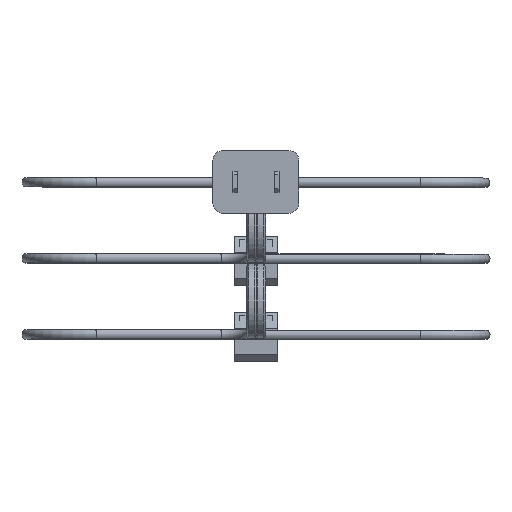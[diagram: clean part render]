
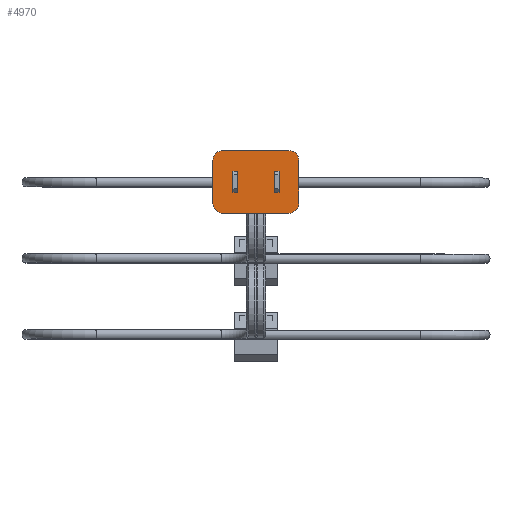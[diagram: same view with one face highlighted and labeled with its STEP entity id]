
A CAD part, top view. The second image highlights one B-rep face of the part: STEP entity #4970.
In plain terms, the highlighted planar face has unit normal (0, 0, 1) as drawn and (0, 0, -1) by its records, which use the part's own axes.
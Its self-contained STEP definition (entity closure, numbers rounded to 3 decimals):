
#103=FACE_BOUND('',#803,.T.);
#104=FACE_BOUND('',#804,.T.);
#176=PLANE('',#5600);
#501=FACE_OUTER_BOUND('',#802,.T.);
#802=EDGE_LOOP('',(#4292,#4293,#4294,#4295,#4296,#4297,#4298,#4299));
#803=EDGE_LOOP('',(#4300,#4301,#4302,#4303));
#804=EDGE_LOOP('',(#4304,#4305,#4306,#4307));
#1132=CIRCLE('',#5582,3.);
#1139=CIRCLE('',#5592,3.);
#1140=CIRCLE('',#5594,3.);
#1141=CIRCLE('',#5597,3.);
#1405=LINE('',#8200,#1799);
#1418=LINE('',#8229,#1812);
#1425=LINE('',#8250,#1819);
#1427=LINE('',#8254,#1821);
#1428=LINE('',#8256,#1822);
#1430=LINE('',#8261,#1824);
#1432=LINE('',#8264,#1826);
#1433=LINE('',#8266,#1827);
#1459=LINE('',#8810,#1853);
#1465=LINE('',#8825,#1859);
#1467=LINE('',#8831,#1861);
#1468=LINE('',#8833,#1862);
#1799=VECTOR('',#6706,10.);
#1812=VECTOR('',#6729,10.);
#1819=VECTOR('',#6752,10.);
#1821=VECTOR('',#6756,10.);
#1822=VECTOR('',#6759,10.);
#1824=VECTOR('',#6763,10.);
#1826=VECTOR('',#6767,10.);
#1827=VECTOR('',#6770,10.);
#1853=VECTOR('',#6950,10.);
#1859=VECTOR('',#6966,10.);
#1861=VECTOR('',#6974,10.);
#1862=VECTOR('',#6977,10.);
#2252=VERTEX_POINT('',#8197);
#2253=VERTEX_POINT('',#8199);
#2263=VERTEX_POINT('',#8226);
#2264=VERTEX_POINT('',#8228);
#2270=VERTEX_POINT('',#8248);
#2271=VERTEX_POINT('',#8252);
#2272=VERTEX_POINT('',#8258);
#2273=VERTEX_POINT('',#8260);
#2323=VERTEX_POINT('',#8779);
#2324=VERTEX_POINT('',#8780);
#2336=VERTEX_POINT('',#8809);
#2337=VERTEX_POINT('',#8813);
#2338=VERTEX_POINT('',#8817);
#2339=VERTEX_POINT('',#8818);
#2340=VERTEX_POINT('',#8823);
#2341=VERTEX_POINT('',#8827);
#2875=EDGE_CURVE('',#2253,#2252,#1405,.T.);
#2889=EDGE_CURVE('',#2264,#2263,#1418,.T.);
#2899=EDGE_CURVE('',#2252,#2270,#1425,.T.);
#2901=EDGE_CURVE('',#2270,#2271,#1427,.T.);
#2902=EDGE_CURVE('',#2271,#2253,#1428,.T.);
#2904=EDGE_CURVE('',#2273,#2272,#1430,.T.);
#2906=EDGE_CURVE('',#2272,#2264,#1432,.T.);
#2907=EDGE_CURVE('',#2263,#2273,#1433,.T.);
#2989=EDGE_CURVE('',#2323,#2324,#1132,.T.);
#3004=EDGE_CURVE('',#2324,#2336,#1459,.T.);
#3006=EDGE_CURVE('',#2336,#2337,#1139,.T.);
#3008=EDGE_CURVE('',#2338,#2339,#1140,.T.);
#3012=EDGE_CURVE('',#2340,#2338,#1465,.T.);
#3013=EDGE_CURVE('',#2341,#2340,#1141,.T.);
#3015=EDGE_CURVE('',#2337,#2341,#1467,.T.);
#3016=EDGE_CURVE('',#2339,#2323,#1468,.T.);
#4292=ORIENTED_EDGE('',*,*,#2989,.F.);
#4293=ORIENTED_EDGE('',*,*,#3016,.F.);
#4294=ORIENTED_EDGE('',*,*,#3008,.F.);
#4295=ORIENTED_EDGE('',*,*,#3012,.F.);
#4296=ORIENTED_EDGE('',*,*,#3013,.F.);
#4297=ORIENTED_EDGE('',*,*,#3015,.F.);
#4298=ORIENTED_EDGE('',*,*,#3006,.F.);
#4299=ORIENTED_EDGE('',*,*,#3004,.F.);
#4300=ORIENTED_EDGE('',*,*,#2875,.T.);
#4301=ORIENTED_EDGE('',*,*,#2899,.T.);
#4302=ORIENTED_EDGE('',*,*,#2901,.T.);
#4303=ORIENTED_EDGE('',*,*,#2902,.T.);
#4304=ORIENTED_EDGE('',*,*,#2904,.T.);
#4305=ORIENTED_EDGE('',*,*,#2906,.T.);
#4306=ORIENTED_EDGE('',*,*,#2889,.T.);
#4307=ORIENTED_EDGE('',*,*,#2907,.T.);
#4970=ADVANCED_FACE('',(#501,#103,#104),#176,.F.);
#5582=AXIS2_PLACEMENT_3D('',#8781,#6924,#6925);
#5592=AXIS2_PLACEMENT_3D('',#8814,#6954,#6955);
#5594=AXIS2_PLACEMENT_3D('',#8819,#6959,#6960);
#5597=AXIS2_PLACEMENT_3D('',#8828,#6969,#6970);
#5600=AXIS2_PLACEMENT_3D('',#8834,#6978,#6979);
#6706=DIRECTION('',(0.,-1.,0.));
#6729=DIRECTION('',(0.,1.,0.));
#6752=DIRECTION('',(1.,0.,0.));
#6756=DIRECTION('',(0.,1.,0.));
#6759=DIRECTION('',(-1.,0.,0.));
#6763=DIRECTION('',(0.,-1.,0.));
#6767=DIRECTION('',(1.,0.,0.));
#6770=DIRECTION('',(-1.,0.,0.));
#6924=DIRECTION('center_axis',(0.,0.,
1.));
#6925=DIRECTION('ref_axis',(-0.707,0.707,0.));
#6950=DIRECTION('',(0.,-1.,0.));
#6954=DIRECTION('center_axis',(0.,0.,
1.));
#6955=DIRECTION('ref_axis',(-0.707,-0.707,0.));
#6959=DIRECTION('center_axis',(0.,0.,
1.));
#6960=DIRECTION('ref_axis',(0.707,0.707,0.));
#6966=DIRECTION('',(0.,1.,0.));
#6969=DIRECTION('center_axis',(0.,0.,
1.));
#6970=DIRECTION('ref_axis',(0.707,-0.707,0.));
#6974=DIRECTION('',(1.,0.,0.));
#6977=DIRECTION('',(-1.,0.,0.));
#6978=DIRECTION('center_axis',(0.,0.,
1.));
#6979=DIRECTION('ref_axis',(1.,0.,0.));
#8197=CARTESIAN_POINT('',(5.5,-3.125,-32.5));
#8199=CARTESIAN_POINT('',(5.5,3.125,-32.5));
#8200=CARTESIAN_POINT('',(5.5,1.563,-32.5));
#8226=CARTESIAN_POINT('',(-5.5,3.125,-32.5));
#8228=CARTESIAN_POINT('',(-5.5,-3.125,-32.5));
#8229=CARTESIAN_POINT('',(-5.5,-1.562,-32.5));
#8248=CARTESIAN_POINT('',(7.,-3.125,-32.5));
#8250=CARTESIAN_POINT('',(2.75,-3.125,-32.5));
#8252=CARTESIAN_POINT('',(7.,3.125,-32.5));
#8254=CARTESIAN_POINT('',(7.,-1.563,-32.5));
#8256=CARTESIAN_POINT('',(3.5,3.125,-32.5));
#8258=CARTESIAN_POINT('',(-7.,-3.125,-32.5));
#8260=CARTESIAN_POINT('',(-7.,3.125,-32.5));
#8261=CARTESIAN_POINT('',(-7.,1.563,-32.5));
#8264=CARTESIAN_POINT('',(-3.5,-3.125,-32.5));
#8266=CARTESIAN_POINT('',(-2.75,3.125,-32.5));
#8779=CARTESIAN_POINT('',(-10.,9.5,-32.5));
#8780=CARTESIAN_POINT('',(-13.,6.5,-32.5));
#8781=CARTESIAN_POINT('Origin',(-10.,6.5,-32.5));
#8809=CARTESIAN_POINT('',(-13.,-6.5,-32.5));
#8810=CARTESIAN_POINT('',(-13.,9.5,-32.5));
#8813=CARTESIAN_POINT('',(-10.,-9.5,-32.5));
#8814=CARTESIAN_POINT('Origin',(-10.,-6.5,-32.5));
#8817=CARTESIAN_POINT('',(13.,6.5,-32.5));
#8818=CARTESIAN_POINT('',(10.,9.5,-32.5));
#8819=CARTESIAN_POINT('Origin',(10.,6.5,-32.5));
#8823=CARTESIAN_POINT('',(13.,-6.5,-32.5));
#8825=CARTESIAN_POINT('',(13.,-9.5,-32.5));
#8827=CARTESIAN_POINT('',(10.,-9.5,-32.5));
#8828=CARTESIAN_POINT('Origin',(10.,-6.5,-32.5));
#8831=CARTESIAN_POINT('',(-13.,-9.5,-32.5));
#8833=CARTESIAN_POINT('',(13.,9.5,-32.5));
#8834=CARTESIAN_POINT('Origin',(0.,0.,
-32.5));
